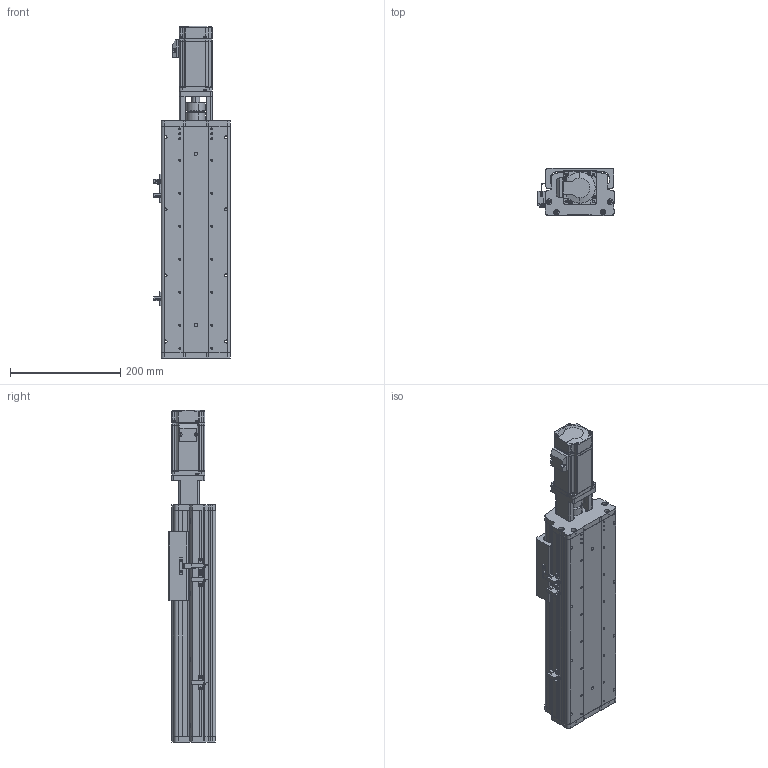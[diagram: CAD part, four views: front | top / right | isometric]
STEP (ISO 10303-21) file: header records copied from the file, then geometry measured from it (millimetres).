
FILE_DESCRIPTION (( 'STEP AP214' ), '1' );
FILE_NAME ('KSD125S-S200-MT-CM.STEP', '2017-08-07T06:35:49', ( '微软用户' ), ( '微软中国' ), 'SwSTEP 2.0', 'SolidWorks 2014', '' );
FILE_SCHEMA (( 'AUTOMOTIVE_DESIGN' ));
Length unit declared in the file: millimetre
Products named in the file (13): U倰嫖萇假蚾璃; U倰嫖萇EEㄜSX672; ヶ傷啣-125遵耀郪; KSD125-賑雄釱1; CS-34X32-10X14; KSD125S-200俴最佪裝滅鳥裔; 125-帣傷啣1; KSD125S-200俴最佪裝菁啣; KSD125S-S200-MT-CM; MHMD042G1CA_2_03; 100遵鎮湛假蚾啣1 ; 拸萇儂釱滅袉菜; 覜茼え68遵圉猾敕
Assembly tree (16 placements, depth 2):
  KSD125S-S200-MT-CM
    125-帣傷啣1
    CS-34X32-10X14
    KSD125-賑雄釱1
    ヶ傷啣-125遵耀郪
    U倰嫖萇EEㄜSX672  x3
    U倰嫖萇假蚾璃  x3
    覜茼え68遵圉猾敕
    拸萇儂釱滅袉菜
    100遵鎮湛假蚾啣1 
    MHMD042G1CA_2_03
    KSD125S-200俴最佪裝菁啣
    KSD125S-200俴最佪裝滅鳥裔
Bounding box: 138.7 x 86 x 603.5 mm (x, y, z)
Volume: 1770687.6 mm3; surface area: 603602.7 mm2
Topology: 15 solids, 18 shells, 1478 faces, 4256 edges, 2799 vertices
Faces by surface type: cylinder 730, plane 635, cone 91, bspline 22
Entity records: 51697 total; most frequent: CARTESIAN_POINT 10944, DIRECTION 7394, ORIENTED_EDGE 7020, EDGE_CURVE 3588, AXIS2_PLACEMENT_3D 2711, VERTEX_POINT 2391, LINE 1972, VECTOR 1972
